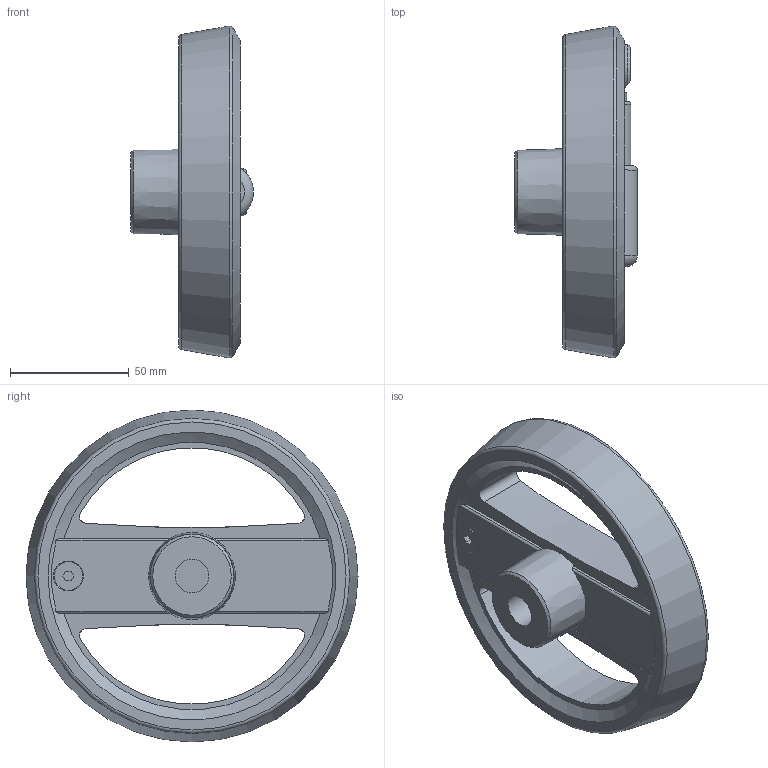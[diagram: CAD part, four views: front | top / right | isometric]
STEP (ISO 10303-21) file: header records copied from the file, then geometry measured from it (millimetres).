
FILE_DESCRIPTION( ( 'STEP AP203' ), '1' );
FILE_NAME( 'C:/Temp/Ganter_Step_05_03_2020/data/1_3/gn_924_7/gn_924_7_b/Handwheel with retractable handle GN 924.7-140-B14-R-SR (unactivated).stp', '2020-03-05T10:41:31', ( 'License CC BY-ND 4.0' ), ( 'CADENAS' ), ' ', 'PARTsolutions', ' ' );
FILE_SCHEMA( ( 'CONFIG_CONTROL_DESIGN' ) );
Length unit declared in the file: millimetre
Products named in the file (3): Handwheel with retractable handle GN 924.7-140-B14-R-SR (unactivated); _Umleggriff-Handrad GN 924.7-140-B14-R-SR-1; _Umleggriff-Handrad GN 924.7-140-B14-R-SR (0)-2
Assembly tree (2 placements, depth 2):
  Handwheel with retractable handle GN 924.7-140-B14-R-SR (unactivated)
    _Umleggriff-Handrad GN 924.7-140-B14-R-SR-1
    _Umleggriff-Handrad GN 924.7-140-B14-R-SR (0)-2
Bounding box: 51.7 x 139.68 x 139.68 mm (x, y, z)
Volume: 222645.3 mm3; surface area: 57722.3 mm2
Topology: 2 solids, 2 shells, 102 faces, 257 edges, 166 vertices
Faces by surface type: plane 44, cylinder 38, cone 10, torus 8, sphere 2
Full cylindrical faces by diameter (mm): 4 x4, 5 x1, 8 x1, 12 x1, 14 x1, 15 x1, 18.5 x1, 20 x1, 24 x1, 25 x1, 25.6 x1
Entity records: 3339 total; most frequent: CARTESIAN_POINT 961, DIRECTION 474, ORIENTED_EDGE 426, EDGE_CURVE 213, AXIS2_PLACEMENT_3D 198, VERTEX_POINT 158, EDGE_LOOP 150, FACE_OUTER_BOUND 123
